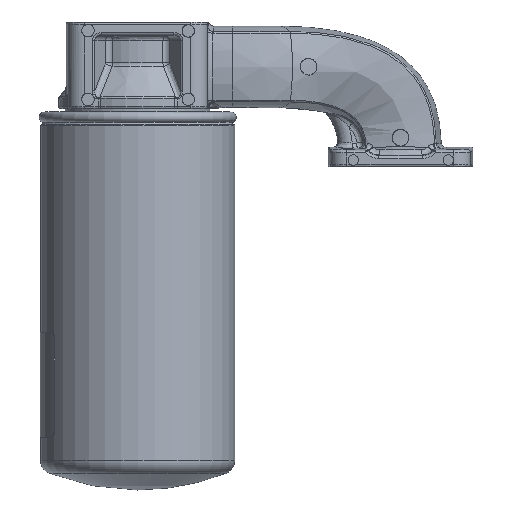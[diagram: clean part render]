
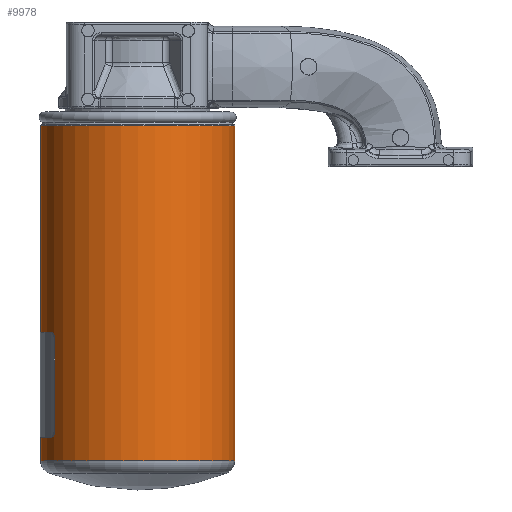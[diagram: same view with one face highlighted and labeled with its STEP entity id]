
A CAD part, top view. The second image highlights one B-rep face of the part: STEP entity #9978.
In plain terms, the highlighted cylindrical face has radius 46.863 mm (diameter 93.726 mm), a full revolution.
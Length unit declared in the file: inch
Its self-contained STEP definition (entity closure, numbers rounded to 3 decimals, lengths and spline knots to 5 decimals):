
#1141=FACE_OUTER_BOUND('',#1736,.T.);
#1736=EDGE_LOOP('',(#6696,#6697,#6698,#6699,#6700,#6701,#6702,#6703));
#2304=LINE('',#15733,#2672);
#2672=VECTOR('',#12277,1.845);
#3201=CIRCLE('',#10884,1.845);
#3202=CIRCLE('',#10885,1.845);
#3206=CIRCLE('',#10889,1.845);
#3207=CIRCLE('',#10891,1.845);
#3208=CIRCLE('',#10892,1.845);
#3209=CIRCLE('',#10893,1.845);
#3819=VERTEX_POINT('',#15716);
#3820=VERTEX_POINT('',#15717);
#3821=VERTEX_POINT('',#15719);
#3824=VERTEX_POINT('',#15728);
#3825=VERTEX_POINT('',#15729);
#3826=VERTEX_POINT('',#15731);
#4868=EDGE_CURVE('',#3819,#3820,#3201,.T.);
#4869=EDGE_CURVE('',#3820,#3821,#3202,.T.);
#4873=EDGE_CURVE('',#3821,#3819,#3206,.T.);
#4874=EDGE_CURVE('',#3824,#3825,#3207,.T.);
#4875=EDGE_CURVE('',#3826,#3824,#3208,.T.);
#4876=EDGE_CURVE('',#3826,#3820,#2304,.T.);
#4877=EDGE_CURVE('',#3825,#3826,#3209,.T.);
#6696=ORIENTED_EDGE('',*,*,#4874,.F.);
#6697=ORIENTED_EDGE('',*,*,#4875,.F.);
#6698=ORIENTED_EDGE('',*,*,#4876,.T.);
#6699=ORIENTED_EDGE('',*,*,#4868,.F.);
#6700=ORIENTED_EDGE('',*,*,#4873,.F.);
#6701=ORIENTED_EDGE('',*,*,#4869,.F.);
#6702=ORIENTED_EDGE('',*,*,#4876,.F.);
#6703=ORIENTED_EDGE('',*,*,#4877,.F.);
#9252=CYLINDRICAL_SURFACE('',#10890,1.845);
#9978=ADVANCED_FACE('',(#1141),#9252,.T.);
#10884=AXIS2_PLACEMENT_3D('',#15718,#12259,#12260);
#10885=AXIS2_PLACEMENT_3D('',#15720,#12261,#12262);
#10889=AXIS2_PLACEMENT_3D('',#15726,#12269,#12270);
#10890=AXIS2_PLACEMENT_3D('',#15727,#12271,#12272);
#10891=AXIS2_PLACEMENT_3D('',#15730,#12273,#12274);
#10892=AXIS2_PLACEMENT_3D('',#15732,#12275,#12276);
#10893=AXIS2_PLACEMENT_3D('',#15734,#12278,#12279);
#12259=DIRECTION('center_axis',(0.,0.,1.));
#12260=DIRECTION('ref_axis',(0.,-1.,0.));
#12261=DIRECTION('center_axis',(0.,0.,1.));
#12262=DIRECTION('ref_axis',(0.,-1.,0.));
#12269=DIRECTION('center_axis',(0.,0.,1.));
#12270=DIRECTION('ref_axis',(0.,-1.,0.));
#12271=DIRECTION('center_axis',(0.,0.,-1.));
#12272=DIRECTION('ref_axis',(0.,1.,0.));
#12273=DIRECTION('center_axis',(0.,0.,-1.));
#12274=DIRECTION('ref_axis',(0.,-1.,0.));
#12275=DIRECTION('center_axis',(0.,0.,-1.));
#12276=DIRECTION('ref_axis',(0.,-1.,0.));
#12277=DIRECTION('',(0.,0.,1.));
#12278=DIRECTION('center_axis',(0.,0.,-1.));
#12279=DIRECTION('ref_axis',(0.,-1.,0.));
#15716=CARTESIAN_POINT('',(0.,1.845,6.9262));
#15717=CARTESIAN_POINT('',(0.,-1.845,6.9262));
#15718=CARTESIAN_POINT('Origin',(0.,0.,6.9262));
#15719=CARTESIAN_POINT('',(1.845,0.,6.9262));
#15720=CARTESIAN_POINT('Origin',(0.,0.,6.9262));
#15726=CARTESIAN_POINT('Origin',(0.,0.,6.9262));
#15727=CARTESIAN_POINT('Origin',(0.,0.,3.66197));
#15728=CARTESIAN_POINT('',(0.,1.845,0.55111));
#15729=CARTESIAN_POINT('',(1.845,0.,0.55111));
#15730=CARTESIAN_POINT('Origin',(0.,0.,0.55111));
#15731=CARTESIAN_POINT('',(0.,-1.845,0.55111));
#15732=CARTESIAN_POINT('Origin',(0.,0.,0.55111));
#15733=CARTESIAN_POINT('',(0.,-1.845,3.66197));
#15734=CARTESIAN_POINT('Origin',(0.,0.,0.55111));
